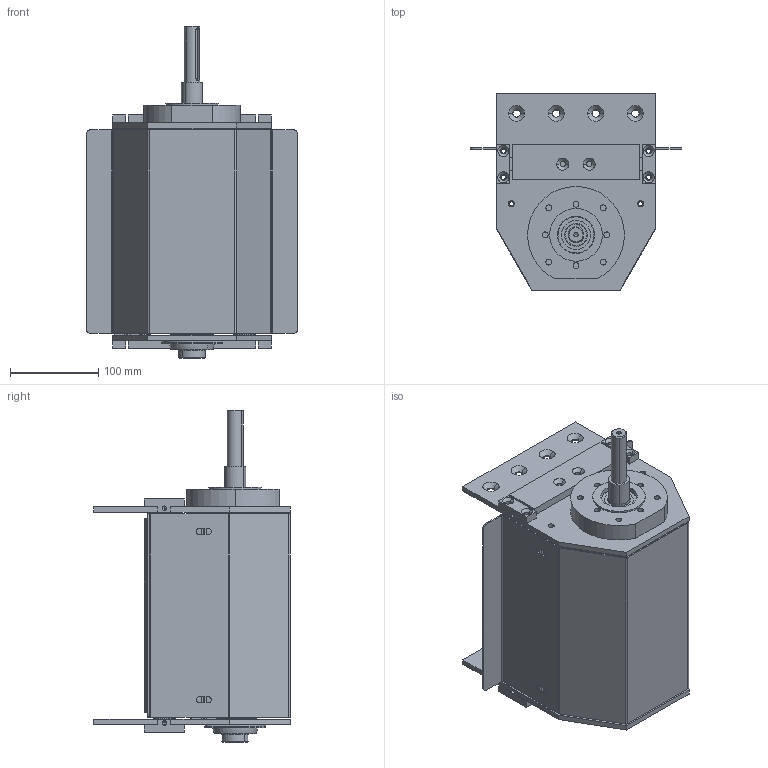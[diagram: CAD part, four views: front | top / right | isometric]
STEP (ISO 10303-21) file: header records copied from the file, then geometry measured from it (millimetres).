
FILE_DESCRIPTION (( 'STEP AP203' ), '1' );
FILE_NAME ('084.095.KCS.44.200.step', '2014-02-18T11:37:14', ( '' ), ( '' ), 'SwSTEP 2.0', 'SolidWorks 2012', '' );
FILE_SCHEMA (( 'CONFIG_CONTROL_DESIGN' ));
Length unit declared in the file: millimetre
Products named in the file (19): 084.817.027; 084.812.003; 084.817.026; 084.817.028; TRAVERSA PER CARTER^084.095.KCS.44.200_Default<A macchina>; 084.810.003; 084.095.KCS.44.200; 084.802.046; 084.802.047; 084.802.048; 084.817.025_Default<A macchina>; 084.802.012_Solo centrale; 084.802.020; CUSCINETTI A SFERE_6004-2RS; 084.802.003; 084.802.010; 084.802.021; 084.814.002-1; 084.802.004-1
Assembly tree (33 placements, depth 2):
  084.095.KCS.44.200
    084.817.028  x2
    084.817.026
    084.817.027  x2
    TRAVERSA PER CARTER^084.095.KCS.44.200_Default<A macchina>  x2
    084.802.010
    084.802.021
    084.814.002-1
    084.810.003  x2
    084.802.004-1  x4
    084.802.020
    084.812.003
    084.802.003  x2
    CUSCINETTI A SFERE_6004-2RS  x4
    084.802.012_Solo centrale  x2
    084.817.025_Default<A macchina>
    084.802.048  x4
    084.802.047
    084.802.046
Bounding box: 240 x 223 x 377 mm (x, y, z)
Volume: 2149363.9 mm3; surface area: 1100864.8 mm2
Topology: 35 solids, 35 shells, 1083 faces, 2716 edges, 1752 vertices
Faces by surface type: plane 461, cylinder 419, cone 125, torus 68, sphere 10
Entity records: 22259 total; most frequent: DIRECTION 3684, CARTESIAN_POINT 3453, ORIENTED_EDGE 3220, EDGE_CURVE 1610, AXIS2_PLACEMENT_3D 1404, VERTEX_POINT 1037, LINE 876, VECTOR 876
